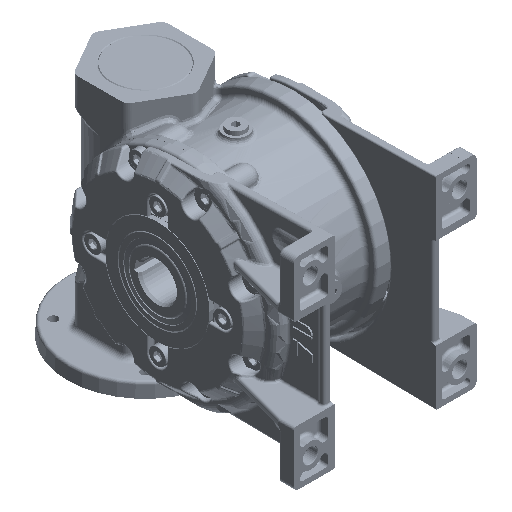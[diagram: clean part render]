
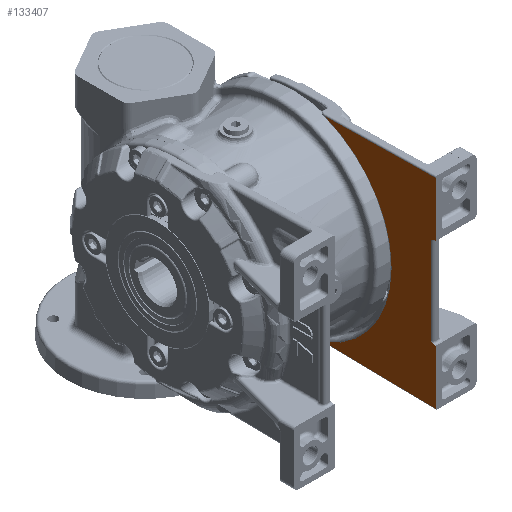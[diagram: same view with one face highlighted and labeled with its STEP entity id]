
A CAD part, isometric view. The second image highlights one B-rep face of the part: STEP entity #133407.
In plain terms, the highlighted planar face has unit normal (-1, 0, 0).
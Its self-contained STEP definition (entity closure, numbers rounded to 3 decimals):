
#126971 = LINE ( 'NONE', #126982, #126979 ) ;
#126974 = CARTESIAN_POINT ( 'NONE',  ( 39., -185., -35. ) ) ;
#126979 = VECTOR ( 'NONE', #126995, 1000. ) ;
#126982 = CARTESIAN_POINT ( 'NONE',  ( 39., -185., -35. ) ) ;
#126995 = DIRECTION ( 'NONE',  ( 0., 1., 0. ) ) ;
#131028 = VERTEX_POINT ( 'NONE', #131098 ) ;
#131053 = EDGE_CURVE ( 'NONE', #131056, #131028, #126971, .T. ) ;
#131056 = VERTEX_POINT ( 'NONE', #126974 ) ;
#131098 = CARTESIAN_POINT ( 'NONE',  ( 39., -183.872, -35. ) ) ;
#131283 = VERTEX_POINT ( 'NONE', #143674 ) ;
#131293 = EDGE_CURVE ( 'NONE', #131295, #131283, #143666, .T. ) ;
#131295 = VERTEX_POINT ( 'NONE', #143655 ) ;
#133144 = VERTEX_POINT ( 'NONE', #167644 ) ;
#133152 = ORIENTED_EDGE ( 'NONE', *, *, #133161, .T. ) ;
#133161 = EDGE_CURVE ( 'NONE', #133144, #131056, #167623, .T. ) ;
#133168 = ORIENTED_EDGE ( 'NONE', *, *, #131053, .T. ) ;
#133177 = ORIENTED_EDGE ( 'NONE', *, *, #133183, .T. ) ;
#133183 = EDGE_CURVE ( 'NONE', #131028, #133188, #167581, .T. ) ;
#133188 = VERTEX_POINT ( 'NONE', #167574 ) ;
#133302 = EDGE_CURVE ( 'NONE', #133188, #133309, #168024, .T. ) ;
#133309 = VERTEX_POINT ( 'NONE', #168017 ) ;
#133317 = ORIENTED_EDGE ( 'NONE', *, *, #133323, .T. ) ;
#133323 = EDGE_CURVE ( 'NONE', #133309, #131295, #167999, .T. ) ;
#133330 = ORIENTED_EDGE ( 'NONE', *, *, #131293, .T. ) ;
#133338 = ORIENTED_EDGE ( 'NONE', *, *, #133346, .T. ) ;
#133346 = EDGE_CURVE ( 'NONE', #131283, #133351, #168185, .T. ) ;
#133351 = VERTEX_POINT ( 'NONE', #168172 ) ;
#133365 = ORIENTED_EDGE ( 'NONE', *, *, #133376, .T. ) ;
#133376 = EDGE_CURVE ( 'NONE', #133351, #133438, #168137, .T. ) ;
#133407 = ADVANCED_FACE ( 'NONE', ( #168098 ), #168089, .F. ) ;
#133416 = EDGE_LOOP ( 'NONE', ( #133428, #133457, #133152, #133168, #133177, #133639, #133317, #133330, #133338, #133365 ) ) ;
#133428 = ORIENTED_EDGE ( 'NONE', *, *, #133434, .T. ) ;
#133434 = EDGE_CURVE ( 'NONE', #133438, #133445, #168339, .T. ) ;
#133438 = VERTEX_POINT ( 'NONE', #168323 ) ;
#133445 = VERTEX_POINT ( 'NONE', #168303 ) ;
#133457 = ORIENTED_EDGE ( 'NONE', *, *, #133460, .T. ) ;
#133460 = EDGE_CURVE ( 'NONE', #133445, #133144, #168266, .T. ) ;
#133639 = ORIENTED_EDGE ( 'NONE', *, *, #133302, .T. ) ;
#143655 = CARTESIAN_POINT ( 'NONE',  ( 39., -183.872, 35. ) ) ;
#143660 = DIRECTION ( 'NONE',  ( 0., -1., 0. ) ) ;
#143662 = VECTOR ( 'NONE', #143660, 1000. ) ;
#143664 = CARTESIAN_POINT ( 'NONE',  ( 39., -185., 35. ) ) ;
#143666 = LINE ( 'NONE', #143664, #143662 ) ;
#143674 = CARTESIAN_POINT ( 'NONE',  ( 39., -185., 35. ) ) ;
#167529 = CARTESIAN_POINT ( 'NONE',  ( 39., -181.208, -33.68 ) ) ;
#167532 = CARTESIAN_POINT ( 'NONE',  ( 39., -181.418, -33.862 ) ) ;
#167534 = CARTESIAN_POINT ( 'NONE',  ( 39., -181.851, -34.206 ) ) ;
#167538 = CARTESIAN_POINT ( 'NONE',  ( 39., -182.076, -34.369 ) ) ;
#167540 = CARTESIAN_POINT ( 'NONE',  ( 39., -182.547, -34.653 ) ) ;
#167543 = CARTESIAN_POINT ( 'NONE',  ( 39., -182.794, -34.773 ) ) ;
#167545 = CARTESIAN_POINT ( 'NONE',  ( 39., -183.321, -34.948 ) ) ;
#167548 = CARTESIAN_POINT ( 'NONE',  ( 39., -183.593, -35. ) ) ;
#167551 = CARTESIAN_POINT ( 'NONE',  ( 39., -183.872, -35. ) ) ;
#167574 = CARTESIAN_POINT ( 'NONE',  ( 39., -181., -33.5 ) ) ;
#167581 = B_SPLINE_CURVE_WITH_KNOTS ( 'NONE', 3,
 ( #167551, #167548, #167545, #167543, #167540, #167538, #167534, #167532, #167529, #167801 ),
 .UNSPECIFIED., .F., .F.,
 ( 4, 2, 2, 2, 4 ),
 ( 0., 0.001, 0.002, 0.002, 0.003 ),
 .UNSPECIFIED. ) ;
#167614 = DIRECTION ( 'NONE',  ( 0., 0., 1. ) ) ;
#167617 = VECTOR ( 'NONE', #167614, 1000. ) ;
#167621 = CARTESIAN_POINT ( 'NONE',  ( 39., -185., -35. ) ) ;
#167623 = LINE ( 'NONE', #167621, #167617 ) ;
#167644 = CARTESIAN_POINT ( 'NONE',  ( 39., -185., -77. ) ) ;
#167801 = CARTESIAN_POINT ( 'NONE',  ( 39., -181., -33.5 ) ) ;
#167948 = CARTESIAN_POINT ( 'NONE',  ( 39., -183.872, 35. ) ) ;
#167950 = CARTESIAN_POINT ( 'NONE',  ( 39., -183.593, 35. ) ) ;
#167954 = CARTESIAN_POINT ( 'NONE',  ( 39., -183.321, 34.948 ) ) ;
#167958 = CARTESIAN_POINT ( 'NONE',  ( 39., -182.794, 34.773 ) ) ;
#167960 = CARTESIAN_POINT ( 'NONE',  ( 39., -182.547, 34.653 ) ) ;
#167963 = CARTESIAN_POINT ( 'NONE',  ( 39., -182.076, 34.369 ) ) ;
#167966 = CARTESIAN_POINT ( 'NONE',  ( 39., -181.851, 34.206 ) ) ;
#167968 = CARTESIAN_POINT ( 'NONE',  ( 39., -181.418, 33.862 ) ) ;
#167970 = CARTESIAN_POINT ( 'NONE',  ( 39., -181.209, 33.681 ) ) ;
#167973 = CARTESIAN_POINT ( 'NONE',  ( 39., -181., 33.5 ) ) ;
#167999 = B_SPLINE_CURVE_WITH_KNOTS ( 'NONE', 3,
 ( #167973, #167970, #167968, #167966, #167963, #167960, #167958, #167954, #167950, #167948 ),
 .UNSPECIFIED., .F., .F.,
 ( 4, 2, 2, 2, 4 ),
 ( 0., 0.001, 0.002, 0.002, 0.003 ),
 .UNSPECIFIED. ) ;
#168017 = CARTESIAN_POINT ( 'NONE',  ( 39., -181., 33.5 ) ) ;
#168019 = DIRECTION ( 'NONE',  ( 0., 0., 1. ) ) ;
#168020 = VECTOR ( 'NONE', #168019, 1000. ) ;
#168022 = CARTESIAN_POINT ( 'NONE',  ( 39., -181., 35. ) ) ;
#168024 = LINE ( 'NONE', #168022, #168020 ) ;
#168077 = DIRECTION ( 'NONE',  ( 0., 0., -1. ) ) ;
#168079 = DIRECTION ( 'NONE',  ( 1., 0., 0. ) ) ;
#168083 = CARTESIAN_POINT ( 'NONE',  ( 39., 0., 0. ) ) ;
#168086 = AXIS2_PLACEMENT_3D ( 'NONE', #168083, #168079, #168077 ) ;
#168089 = PLANE ( 'NONE',  #168086 ) ;
#168098 = FACE_OUTER_BOUND ( 'NONE', #133416, .T. ) ;
#168130 = DIRECTION ( 'NONE',  ( 0., 1., -0.017 ) ) ;
#168132 = VECTOR ( 'NONE', #168130, 1000. ) ;
#168136 = CARTESIAN_POINT ( 'NONE',  ( 39., -96.717, 75.473 ) ) ;
#168137 = LINE ( 'NONE', #168136, #168132 ) ;
#168172 = CARTESIAN_POINT ( 'NONE',  ( 39., -185., 77. ) ) ;
#168177 = DIRECTION ( 'NONE',  ( 0., 0., 1. ) ) ;
#168179 = VECTOR ( 'NONE', #168177, 1000. ) ;
#168183 = CARTESIAN_POINT ( 'NONE',  ( 39., -185., 35. ) ) ;
#168185 = LINE ( 'NONE', #168183, #168179 ) ;
#168258 = DIRECTION ( 'NONE',  ( 0., -1., -0.017 ) ) ;
#168259 = VECTOR ( 'NONE', #168258, 1000. ) ;
#168264 = CARTESIAN_POINT ( 'NONE',  ( 39., -185.017, -77. ) ) ;
#168266 = LINE ( 'NONE', #168264, #168259 ) ;
#168303 = CARTESIAN_POINT ( 'NONE',  ( 39., -99.293, -75.518 ) ) ;
#168323 = CARTESIAN_POINT ( 'NONE',  ( 39., -99.293, 75.518 ) ) ;
#168327 = DIRECTION ( 'NONE',  ( 0., 0., -1. ) ) ;
#168332 = DIRECTION ( 'NONE',  ( 1., 0., 0. ) ) ;
#168333 = CARTESIAN_POINT ( 'NONE',  ( 39., -70., 0. ) ) ;
#168336 = AXIS2_PLACEMENT_3D ( 'NONE', #168333, #168332, #168327 ) ;
#168339 = CIRCLE ( 'NONE', #168336, 81. ) ;
